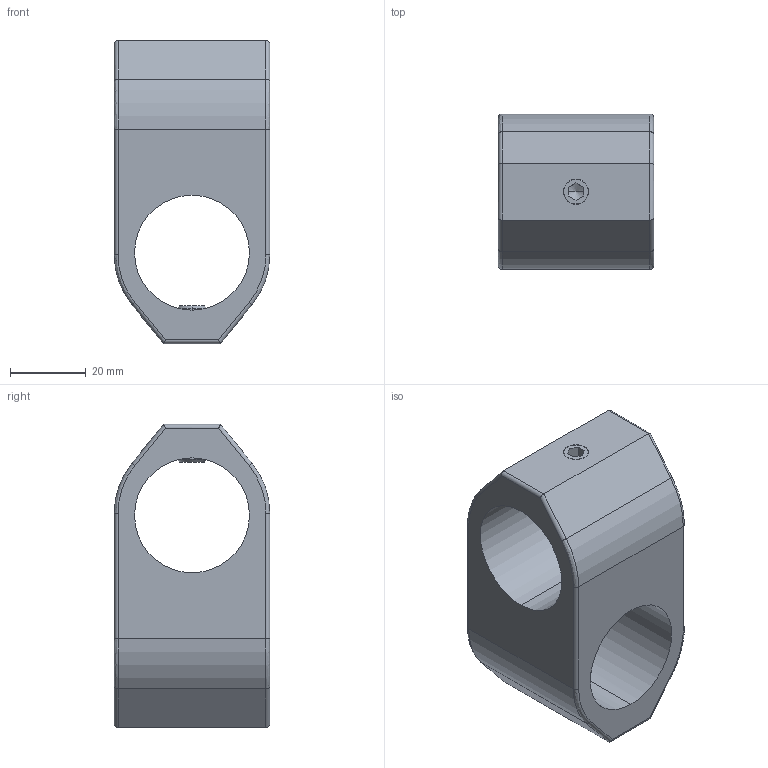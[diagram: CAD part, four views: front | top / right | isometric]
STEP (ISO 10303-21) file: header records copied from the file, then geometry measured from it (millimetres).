
FILE_DESCRIPTION (( 'STEP AP214' ), '1' );
FILE_NAME ('31000410015.STEP', '2024-09-02T09:43:47', ( '' ), ( '' ), 'SwSTEP 2.0', 'SolidWorks 2016', '' );
FILE_SCHEMA (( 'AUTOMOTIVE_DESIGN' ));
Length unit declared in the file: millimetre
Products named in the file (3): 31000410015; DIN 913  (Regelgewinde) M8 x 10; 2086a_1-Schalig
Assembly tree (3 placements, depth 2):
  31000410015
    2086a_1-Schalig
    DIN 913  (Regelgewinde) M8 x 10  x2
Bounding box: 41 x 41 x 80 mm (x, y, z)
Volume: 57359 mm3; surface area: 19909.8 mm2
Topology: 3 solids, 3 shells, 78 faces, 194 edges, 118 vertices
Faces by surface type: cylinder 32, plane 26, cone 12, bspline 8
Entity records: 2914 total; most frequent: CARTESIAN_POINT 717, ORIENTED_EDGE 304, DIRECTION 286, EDGE_CURVE 152, AXIS2_PLACEMENT_3D 106, VERTEX_POINT 93, VECTOR 74, LINE 74
